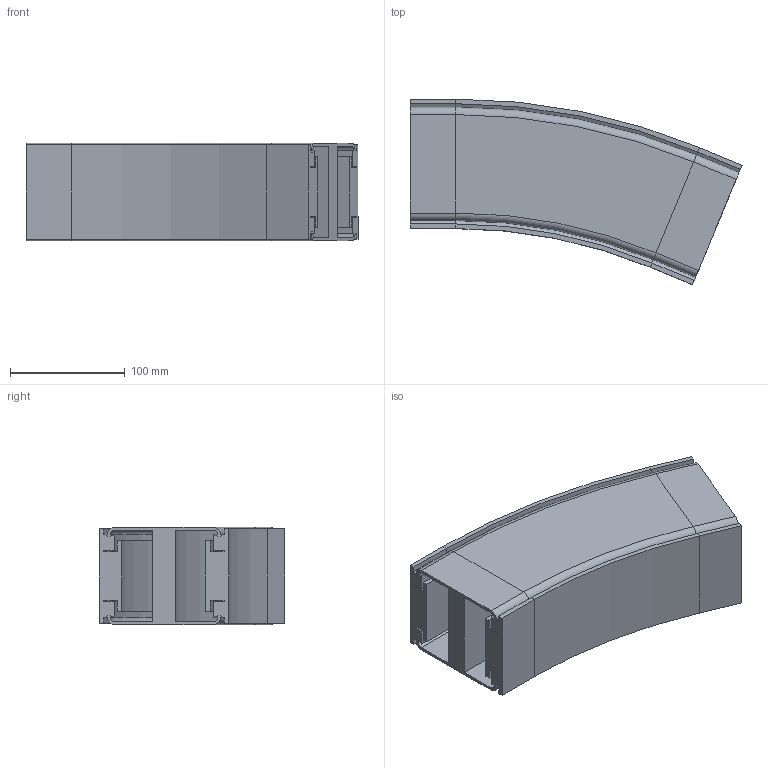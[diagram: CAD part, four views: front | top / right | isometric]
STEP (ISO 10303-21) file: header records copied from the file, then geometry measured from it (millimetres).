
FILE_DESCRIPTION (( 'STEP AP214' ), '1' );
FILE_NAME ('VC.85 Verticale bochtsectie.R500 22,5.STEP', '2017-02-08T08:13:12', ( '' ), ( '' ), 'SwSTEP 2.0', 'SolidWorks 2016', '' );
FILE_SCHEMA (( 'AUTOMOTIVE_DESIGN' ));
Length unit declared in the file: millimetre
Products named in the file (1): VC.85 Verticale bochtsectie.R500 22,5
Bounding box: 289.92 x 162.07 x 85 mm (x, y, z)
Volume: 1317394.2 mm3; surface area: 310397.9 mm2
Topology: 1 solids, 1 shells, 206 faces, 476 edges, 272 vertices
Faces by surface type: plane 144, cylinder 46, cone 8, torus 8
Entity records: 5674 total; most frequent: DIRECTION 990, CARTESIAN_POINT 955, ORIENTED_EDGE 952, EDGE_CURVE 476, LINE 376, VECTOR 376, AXIS2_PLACEMENT_3D 307, VERTEX_POINT 272
